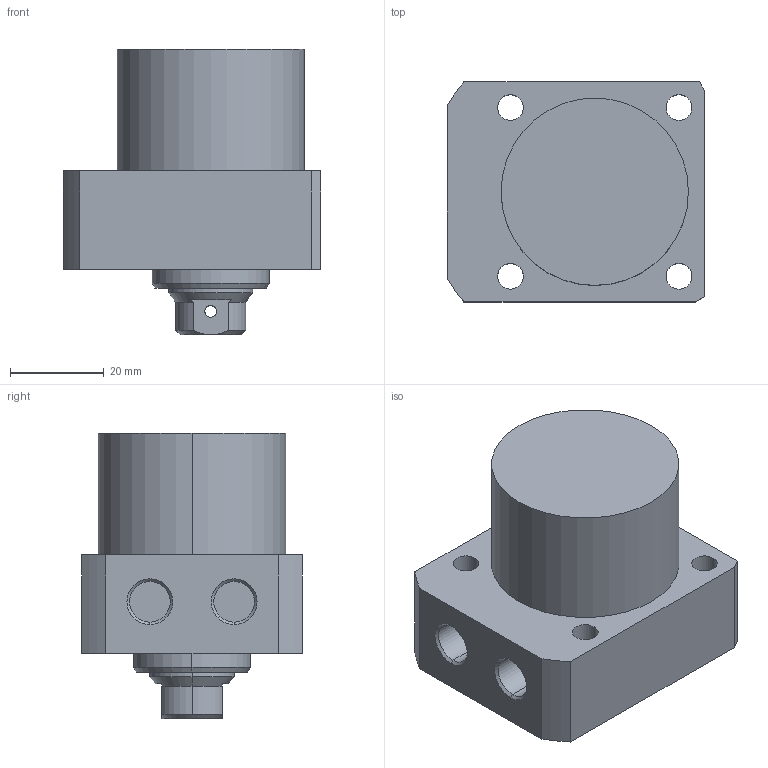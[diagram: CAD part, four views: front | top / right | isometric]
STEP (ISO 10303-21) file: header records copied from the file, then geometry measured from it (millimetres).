
FILE_DESCRIPTION (( 'STEP AP203' ), '1' );
FILE_NAME ('CLLR-040CB-015.STEP', '2019-12-19T09:13:21', ( '' ), ( '' ), 'SwSTEP 2.0', 'SolidWorks 2015', '' );
FILE_SCHEMA (( 'CONFIG_CONTROL_DESIGN' ));
Length unit declared in the file: millimetre
Products named in the file (1): CLLR-040CB-015
Bounding box: 55 x 47 x 61 mm (x, y, z)
Volume: 85706.9 mm3; surface area: 15760.4 mm2
Topology: 1 solids, 1 shells, 67 faces, 159 edges, 100 vertices
Faces by surface type: cylinder 33, plane 19, cone 15
Entity records: 2129 total; most frequent: CARTESIAN_POINT 441, DIRECTION 358, ORIENTED_EDGE 314, EDGE_CURVE 157, AXIS2_PLACEMENT_3D 145, VERTEX_POINT 100, EDGE_LOOP 87, CIRCLE 77
